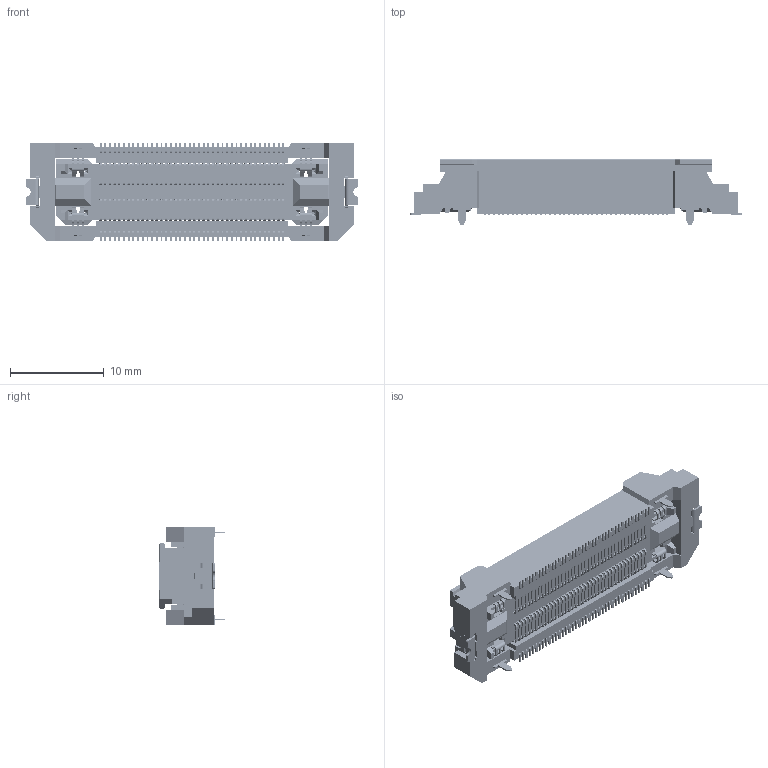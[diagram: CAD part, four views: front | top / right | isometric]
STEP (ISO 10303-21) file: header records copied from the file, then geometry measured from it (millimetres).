
FILE_DESCRIPTION (( 'STEP AP203' ), '1' );
FILE_NAME ('GT-B0505FSV60-80B1201.STEP', '2025-12-31T01:30:36', ( '' ), ( '' ), 'SwSTEP 2.0', 'SolidWorks 2020', '' );
FILE_SCHEMA (( 'CONFIG_CONTROL_DESIGN' ));
Products named in the file (1): GT-B0505FSV60-80B1201
Bounding box: 35.41 x 7.05 x 10.5 mm (x, y, z)
Volume: 1243.6 mm3; surface area: 3377.8 mm2
Topology: 81 solids, 81 shells, 14227 faces, 38514 edges, 24450 vertices
Faces by surface type: plane 8468, cylinder 5516, cone 160, bspline 79, sphere 4
Entity records: 477279 total; most frequent: CARTESIAN_POINT 192007, ORIENTED_EDGE 77024, EDGE_CURVE 38512, B_SPLINE_CURVE_WITH_KNOTS 35180, DIRECTION 32050, VERTEX_POINT 24450, AXIS2_PLACEMENT_3D 14569, EDGE_LOOP 14274
